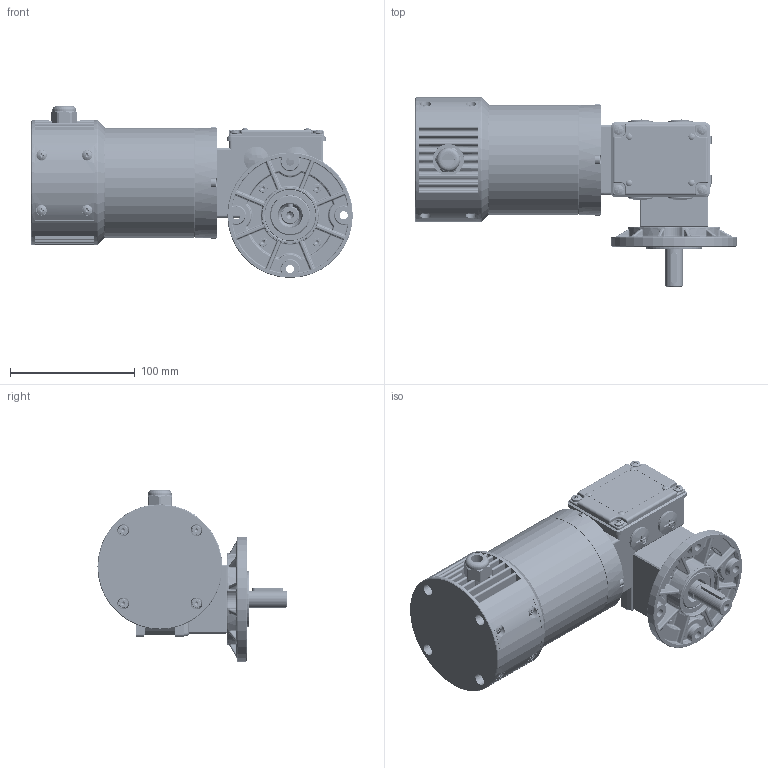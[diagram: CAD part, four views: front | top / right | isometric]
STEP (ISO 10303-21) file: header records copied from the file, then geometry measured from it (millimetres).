
FILE_DESCRIPTION(/* description */ ('ANELLO OR 67.94X2.62 TIPO 32.68 VITON'),/* implementation_level */ '2;1');
FILE_NAME(/* name */ 'C:\Users\giuseppe.caruso.MINIMOTOR\Desktop\MCCE 24MP3N 37,5 B5S.stp',/* time_stamp */ '2014-06-11T17:01:36+02:00',/* author */ ('giuseppe.caruso'),/* organization */ (''),/* preprocessor_version */ 'ST-DEVELOPER v15.2',/* originating_system */ 'Autodesk Inventor 2014',/* authorisation */ '');
FILE_SCHEMA (('AUTOMOTIVE_DESIGN { 1 0 10303 214 3 1 1 }'));
Products named in the file (50): OR001; CRT001-1; CRT001-2; CRT001-3; CRT001-4; CRT001-5; CRT001-6; CRT001; ASF035; VCE445; CHI003; VSE616; VAF314; VTC408; VCE420; VCE416; SPN018; RIV014I; VTC410S; VCE410; TPP001; BOC001; OR009; ALR050; CRN002; ING278; SRD061; GRN035; CPM005A; TRG001; STT033; MGN001S; MGN001N; STT033C; CPR070; CUF044; CUF051-CSA; CUF055; GRN025; TPP009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
Bounding box: 257.65 x 151.5 x 137.75 mm (x, y, z)
Volume: 768999.5 mm3; surface area: 382036.2 mm2
Topology: 84 solids, 85 shells, 4855 faces, 12634 edges, 8006 vertices
Faces by surface type: plane 2505, cylinder 1430, cone 363, torus 303, sphere 151, bspline 103
Full cylindrical faces by diameter (mm): 1.6 x1, 2.459 x1, 2.5 x2, 2.6 x1, 2.7 x8, 2.9 x1, 3.242 x51, 3.4 x4, 3.8 x4, 4 x52, 4.134 x3, 4.2 x4, 4.5 x42, 5 x4, 5.1 x4, 6 x5, 6.5 x4, 6.561 x1, 7 x23, 7.5 x10, 7.6 x1, 8 x14, 8.5 x8, 10 x1, 11 x4, 11.57 x1, 14 x2, 14.376 x5, 14.38 x1, 15 x3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
Entity records: 112490 total; most frequent: CARTESIAN_POINT 23956, DIRECTION 18713, ORIENTED_EDGE 17558, EDGE_CURVE 8779, AXIS2_PLACEMENT_3D 6729, VERTEX_POINT 5798, LINE 5255, VECTOR 5255
